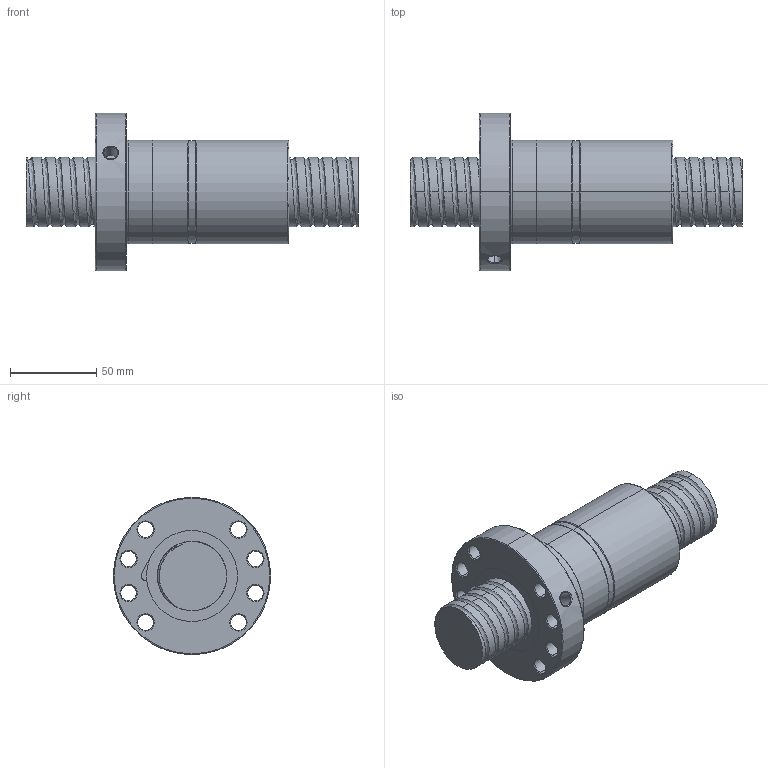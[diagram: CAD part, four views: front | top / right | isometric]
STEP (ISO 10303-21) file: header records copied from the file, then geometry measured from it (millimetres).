
FILE_DESCRIPTION (( 'STEP AP214' ), '1' );
FILE_NAME ('FDDC04008T4-D-A.STEP', '2010-07-06T05:32:57', ( 'XPAUTO' ), ( 'XPAUTO' ), 'SwSTEP 2.0', 'SolidWorks 2007', '' );
FILE_SCHEMA (( 'AUTOMOTIVE_DESIGN' ));
Length unit declared in the file: millimetre
Products named in the file (3): FDDC04008T4-D-A.sldasm-Part-1_預設; FDDC04008T4-D-A; FDDC04008T4-D-A.sldasm-Part-2_預設
Assembly tree (2 placements, depth 2):
  FDDC04008T4-D-A
    FDDC04008T4-D-A.sldasm-Part-1_預設
    FDDC04008T4-D-A.sldasm-Part-2_預設
Bounding box: 192 x 91 x 91 mm (x, y, z)
Volume: 462766.4 mm3; surface area: 80342.6 mm2
Topology: 2 solids, 2 shells, 160 faces, 402 edges, 251 vertices
Faces by surface type: cylinder 97, cone 32, plane 16, torus 10, bspline 5
Entity records: 46389 total; most frequent: CARTESIAN_POINT 42573, ORIENTED_EDGE 804, DIRECTION 748, EDGE_CURVE 402, AXIS2_PLACEMENT_3D 306, VERTEX_POINT 251, EDGE_LOOP 185, ADVANCED_FACE 160
